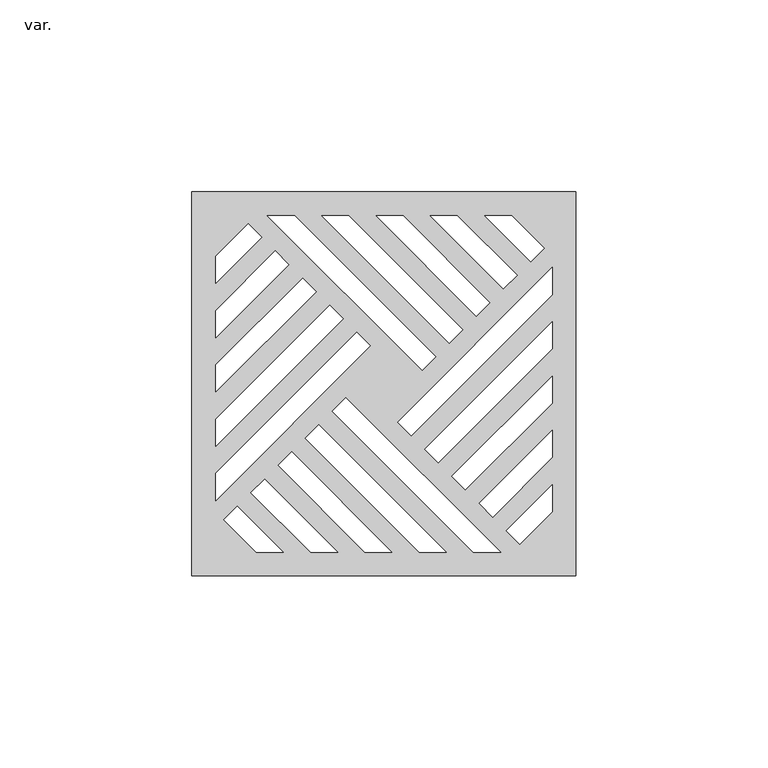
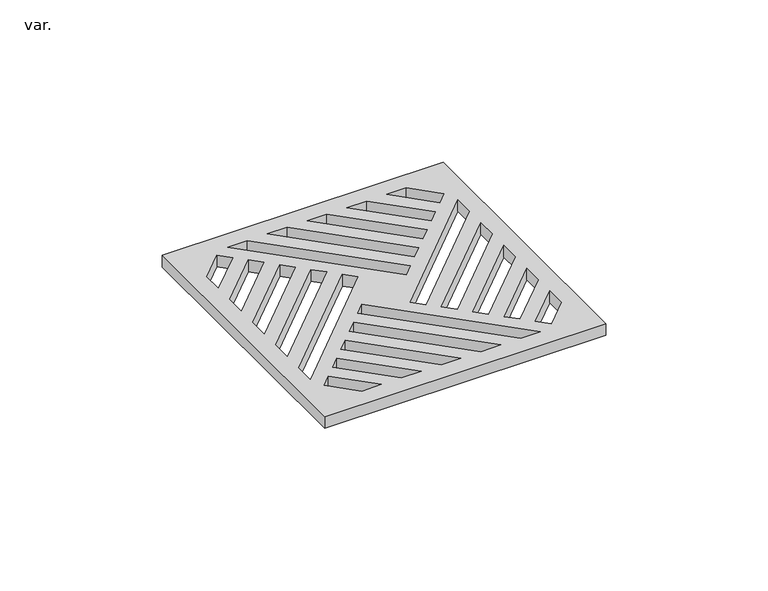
"""IFC4 building model written with IfcOpenShell, lengths in millimetres: pipe fitting geometry, AmancoWavin_Unionesdetubería_PVCNivel1ZNoUsarRejilla(ParaSilentium) : var.."""

import ifcopenshell
import ifcopenshell.guid

model = None  # the IFC model being written
_history = None  # IfcOwnerHistory: only IFC2X3 demands one
_inside = {}  # id of a spatial element -> (the spatial element, [elements in it])
_under = {}  # id of a project, library or spatial element -> (it, [spatial elements below it])
_declared = {}  # id of a project -> (the project, [libraries it declares])
_typed = {}  # id of a type object -> (the type object, [elements of that type])
_made_of = {}  # id of a material, layer set ... -> (it, [elements and type objects made of it])


def new_model(schema):
    """Start an empty IFC model of exactly this schema.

    Asked for "IFC4X3", IfcOpenShell would pick the latest addendum, in which some entities
    have other attributes; the version numbers below select the first issue.
    IFC2X3 requires an IfcOwnerHistory on every rooted entity: one is made here for all.
    """
    global model, _history
    if schema == "IFC4X3":
        model = ifcopenshell.file(schema_version=(4, 3, 0, 0))
    else:
        model = ifcopenshell.file(schema=schema)
    _inside.clear()
    _under.clear()
    _declared.clear()
    _typed.clear()
    _made_of.clear()
    _history = None
    if model.schema == "IFC2X3":
        org = make("IfcOrganization", Name="unknown")
        user = make(
            "IfcPersonAndOrganization",
            ThePerson=make("IfcPerson", FamilyName="unknown"),
            TheOrganization=org,
        )
        app = make(
            "IfcApplication",
            ApplicationDeveloper=org,
            Version="unknown",
            ApplicationFullName="unknown",
            ApplicationIdentifier="unknown",
        )
        _history = make(
            "IfcOwnerHistory",
            OwningUser=user,
            OwningApplication=app,
            ChangeAction="ADDED",
            CreationDate=0,
        )
    return model


def make(cls, **values):
    """One entity of the class cls with the attributes given. An attribute that is None is left unset."""
    return model.create_entity(
        cls, **{name: value for name, value in values.items() if value is not None}
    )


def rooted(cls, **values):
    """An entity with a GlobalId (a new one), such as an element, a storey or a relation."""
    return make(cls, GlobalId=ifcopenshell.guid.new(), OwnerHistory=_history, **values)


def si_unit(unit_type, name, prefix=None):
    """IfcSIUnit, for example si_unit("LENGTHUNIT", "METRE", prefix="MILLI")."""
    return make("IfcSIUnit", UnitType=unit_type, Prefix=prefix, Name=name)


def assignment(units):
    """IfcUnitAssignment: the units of a project."""
    return None if units is None else make("IfcUnitAssignment", Units=units)


def point(xyz):
    """IfcCartesianPoint."""
    return None if xyz is None else make("IfcCartesianPoint", Coordinates=xyz)


def direction(xyz):
    """IfcDirection."""
    return None if xyz is None else make("IfcDirection", DirectionRatios=xyz)


def frame(location, z_axis=None, x_axis=None):
    """IfcAxis2Placement3D, a coordinate frame: its origin and axes. An axis left out is left unset."""
    return make(
        "IfcAxis2Placement3D",
        Location=point(location),
        Axis=direction(z_axis),
        RefDirection=direction(x_axis),
    )


def origin():
    """The frame at (0, 0, 0) with its axes left unset."""
    return frame((0.0, 0.0, 0.0))


def place(relative_to, where):
    """IfcLocalPlacement: puts the frame where relative to a parent placement (None: the world)."""
    return make(
        "IfcLocalPlacement", PlacementRelTo=relative_to, RelativePlacement=where
    )


def context(
    kind, dimensions, precision=None, world=None, true_north=None, identifier=None
):
    """IfcGeometricRepresentationContext, for example the 3D "Model" context."""
    return make(
        "IfcGeometricRepresentationContext",
        ContextIdentifier=identifier,
        ContextType=kind,
        CoordinateSpaceDimension=dimensions,
        Precision=precision,
        WorldCoordinateSystem=world,
        TrueNorth=true_north,
    )


def project(units=None, contexts=None):
    """IfcProject with its units and contexts."""
    return rooted(
        "IfcProject",
        Name="project",
        RepresentationContexts=contexts,
        UnitsInContext=assignment(units),
    )


def spatial(cls, under=None, at=None, **own):
    """A site, building, storey or space (cls), placed at a placement, below another one or the project."""
    s = rooted(cls, ObjectPlacement=at, **own)
    if under is not None:
        _under.setdefault(under.id(), (under, []))[1].append(s)
    return s


def polyline(points):
    """IfcPolyline through the points."""
    return make("IfcPolyline", Points=[point(p) for p in points])


def outline(outer, holes=None, kind="AREA"):
    """IfcArbitraryClosedProfileDef: a profile drawn as a closed curve; with holes, ...WithVoids."""
    if holes is None:
        return make("IfcArbitraryClosedProfileDef", ProfileType=kind, OuterCurve=outer)
    return make(
        "IfcArbitraryProfileDefWithVoids",
        ProfileType=kind,
        OuterCurve=outer,
        InnerCurves=holes,
    )


def extrude(swept, where, along, depth):
    """IfcExtrudedAreaSolid: the profile swept, set in the frame where, extruded along a direction by depth."""
    return make(
        "IfcExtrudedAreaSolid",
        SweptArea=swept,
        Position=where,
        ExtrudedDirection=direction(along),
        Depth=depth,
    )


def shape(context_of_items, identifier, shape_type, items):
    """IfcShapeRepresentation: the items that make up one representation, for example the "Body"."""
    return make(
        "IfcShapeRepresentation",
        ContextOfItems=context_of_items,
        RepresentationIdentifier=identifier,
        RepresentationType=shape_type,
        Items=items,
    )


def source(mapping_origin, context_of_items, identifier, shape_type, items):
    """IfcRepresentationMap: a shape defined once, which mapped items show again and again."""
    return make(
        "IfcRepresentationMap",
        MappingOrigin=mapping_origin,
        MappedRepresentation=shape(context_of_items, identifier, shape_type, items),
    )


def transform(
    local_origin,
    x_axis=None,
    y_axis=None,
    z_axis=None,
    scale=None,
    scale2=None,
    scale3=None,
    uniform=True,
):
    """IfcCartesianTransformationOperator3D, or its non-uniform kind. x_axis, y_axis, z_axis: its Axis1, 2, 3."""
    if uniform:
        return make(
            "IfcCartesianTransformationOperator3D",
            Axis1=direction(x_axis),
            Axis2=direction(y_axis),
            LocalOrigin=point(local_origin),
            Scale=scale,
            Axis3=direction(z_axis),
        )
    return make(
        "IfcCartesianTransformationOperator3DnonUniform",
        Axis1=direction(x_axis),
        Axis2=direction(y_axis),
        LocalOrigin=point(local_origin),
        Scale=scale,
        Axis3=direction(z_axis),
        Scale2=scale2,
        Scale3=scale3,
    )


def mapped(mapping_source, mapping_target):
    """IfcMappedItem: shows the shape of a source again, moved by a transform."""
    return make(
        "IfcMappedItem", MappingSource=mapping_source, MappingTarget=mapping_target
    )


def made_of(thing, what):
    """Note that an element or type object is made of a material, layer set ...; save() writes the relation."""
    if what is not None:
        _made_of.setdefault(what.id(), (what, []))[1].append(thing)
    return thing


def element(
    cls,
    number,
    at=None,
    inside=None,
    cuts=None,
    type_object=None,
    material=None,
    context=None,
    identifier="Body",
    shape_type=None,
    held_by="IfcProductDefinitionShape",
    body=None,
    shapes=None,
    **own,
):
    """One element of the class cls, such as IfcWall. Its Tag is "e" and its number.

    at: its placement. inside: the storey or other place that contains it. cuts: it is an
    opening in that element (IfcRelVoidsElement). A single representation is given by context,
    identifier, shape_type and body (its items); several are given by shapes. held_by: the class
    of the entity that holds the representations. save() writes the other relations.
    """
    e = rooted(cls, Tag="e%d" % number, ObjectPlacement=at, **own)
    if body is not None:
        shapes = [shape(context, identifier, shape_type, body)]
    if shapes is not None:
        e.Representation = make(held_by, Representations=shapes)
    if inside is not None:
        _inside.setdefault(inside.id(), (inside, []))[1].append(e)
    if cuts is not None:
        rooted(
            "IfcRelVoidsElement", RelatingBuildingElement=cuts, RelatedOpeningElement=e
        )
    if type_object is not None:
        _typed.setdefault(type_object.id(), (type_object, []))[1].append(e)
    return made_of(e, material)


def aggregate(whole, parts):
    """IfcRelAggregates: a whole, such as a stair, and the parts it consists of."""
    return rooted("IfcRelAggregates", RelatingObject=whole, RelatedObjects=parts)


def save(model, path):
    """Write the relations noted so far, then the file.

    IfcRelAggregates (storeys below a building ...), IfcRelContainedInSpatialStructure (elements
    in a storey), IfcRelDefinesByType, IfcRelAssociatesMaterial and IfcRelDeclares: one each for
    every whole, place, type object, material and project.
    """
    for whole, parts in _under.values():
        aggregate(whole, parts)
    for where, things in _inside.values():
        rooted(
            "IfcRelContainedInSpatialStructure",
            RelatedElements=things,
            RelatingStructure=where,
        )
    for kind, things in _typed.values():
        rooted("IfcRelDefinesByType", RelatedObjects=things, RelatingType=kind)
    for what, things in _made_of.values():
        rooted("IfcRelAssociatesMaterial", RelatedObjects=things, RelatingMaterial=what)
    for by, libraries in _declared.values():
        rooted("IfcRelDeclares", RelatingContext=by, RelatedDefinitions=libraries)
    model.write(path)


def var_2cd6268c(model_context):
    return source(origin(), model_context, "Body", "SweptSolid", [
        extrude(outline(polyline([(-19.2453589, 50.0), (-19.2453589, -50.0), (-119.2453589, -50.0), (-119.2453589, 50.0), (-19.2453589, 50.0)]), holes=[polyline([(-110.9651385, -35.3558186), (-102.520957, -43.8), (-95.4498892, -43.8), (-107.4296046, -31.8202847), (-110.9651385, -35.3558186)]), polyline([(-103.8940707, -28.2847507), (-88.3788214, -43.8), (-81.3077536, -43.8), (-100.3585368, -24.7492168), (-103.8940707, -28.2847507)]), polyline([(-96.8230028, -21.2136829), (-74.2366858, -43.8), (-67.165618, -43.8), (-93.2874689, -17.678149), (-96.8230028, -21.2136829)]), polyline([(-89.751935, -14.1426151), (-60.0945502, -43.8), (-53.0234824, -43.8), (-86.2164011, -10.6070812), (-89.751935, -14.1426151)]), polyline([(-82.6808672, -7.0715473), (-45.9524145, -43.8), (-38.8813467, -43.8), (-79.1453333, -3.5360134), (-82.6808672, -7.0715473)]), polyline([(-33.8895403, -41.7197796), (-25.4453589, -33.2755982), (-25.4453589, -26.2045303), (-37.4250742, -38.1842457), (-33.8895403, -41.7197796)]), polyline([(-40.9606081, -34.6487118), (-25.4453589, -19.1334625), (-25.4453589, -12.0623947), (-44.496142, -31.1131779), (-40.9606081, -34.6487118)]), polyline([(-48.0316759, -27.577644), (-25.4453589, -4.9913269), (-25.4453589, 2.0797409), (-51.5672098, -24.0421101), (-48.0316759, -27.577644)]), polyline([(-55.1027438, -20.5065762), (-25.4453589, 9.1508087), (-25.4453589, 16.2218765), (-58.6382777, -16.9710423), (-55.1027438, -20.5065762)]), polyline([(-62.1738116, -13.4355083), (-25.4453589, 23.2929443), (-25.4453589, 30.3640122), (-65.7093455, -9.8999744), (-62.1738116, -13.4355083)]), polyline([(-27.5255793, 35.3558186), (-35.9697607, 43.8), (-43.0408285, 43.8), (-31.0611132, 31.8202847), (-27.5255793, 35.3558186)]), polyline([(-34.5966471, 28.2847507), (-50.1118964, 43.8), (-57.1829642, 43.8), (-38.132181, 24.7492168), (-34.5966471, 28.2847507)]), polyline([(-41.6677149, 21.2136829), (-64.254032, 43.8), (-71.3250998, 43.8), (-45.2032488, 17.678149), (-41.6677149, 21.2136829)]), polyline([(-48.7387827, 14.1426151), (-78.3961676, 43.8), (-85.4672354, 43.8), (-52.2743166, 10.6070812), (-48.7387827, 14.1426151)]), polyline([(-55.8098505, 7.0715473), (-92.5383032, 43.8), (-99.609371, 43.8), (-59.3453844, 3.5360134), (-55.8098505, 7.0715473)]), polyline([(-104.6011774, 41.7197796), (-113.0453589, 33.2755982), (-113.0453589, 26.2045303), (-101.0656435, 38.1842457), (-104.6011774, 41.7197796)]), polyline([(-97.5301096, 34.6487118), (-113.0453589, 19.1334625), (-113.0453589, 12.0623947), (-93.9945757, 31.1131779), (-97.5301096, 34.6487118)]), polyline([(-90.4590418, 27.577644), (-113.0453589, 4.9913269), (-113.0453589, -2.0797409), (-86.9235079, 24.0421101), (-90.4590418, 27.577644)]), polyline([(-83.387974, 20.5065762), (-113.0453589, -9.1508087), (-113.0453589, -16.2218765), (-79.8524401, 16.9710423), (-83.387974, 20.5065762)]), polyline([(-76.3169062, 13.4355083), (-113.0453589, -23.2929443), (-113.0453589, -30.3640122), (-72.7813723, 9.8999744), (-76.3169062, 13.4355083)])]), frame((0.0, 0.0, -4.2), z_axis=(0.0, 0.0, 1.0), x_axis=(1.0, 0.0, 0.0)), (0.0, 0.0, 1.0), 4.4),
    ])


if __name__ == "__main__":
    model = new_model("IFC4")
    model_context = context("Model", 3, world=origin())
    ifc_project = project(units=[si_unit("LENGTHUNIT", "METRE", prefix="MILLI")], contexts=[model_context])
    site = spatial("IfcSite", under=ifc_project)
    building = spatial("IfcBuilding", under=site)
    placement = place(None, origin())
    var_shape = var_2cd6268c(model_context)
    element("IfcPipeFitting", 1, ObjectType="AmancoWavin_Unionesdetubería_PVCNivel1ZNoUsarRejilla(ParaSilentium) : var.", at=placement, inside=building, context=model_context, shape_type="MappedRepresentation", body=[
        mapped(var_shape, transform((0.0, 0.0, 0.0), x_axis=(1.0, 0.0, 0.0), y_axis=(0.0, 1.0, 0.0), z_axis=(0.0, 0.0, 1.0))),
    ])
    save(model, "model.ifc")
